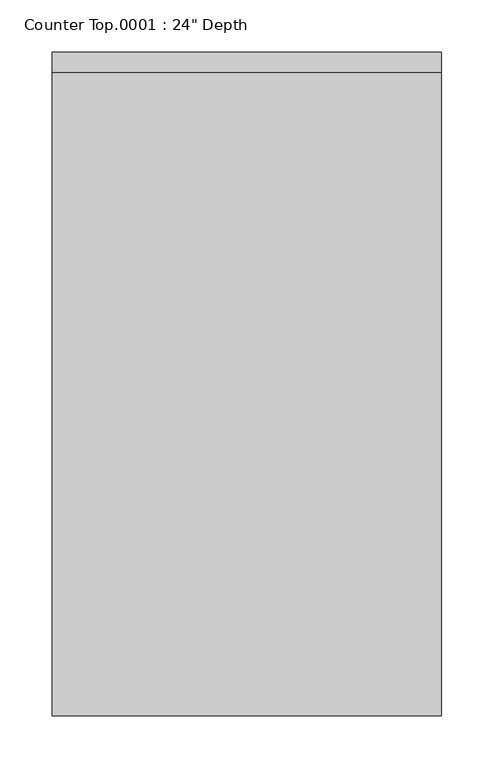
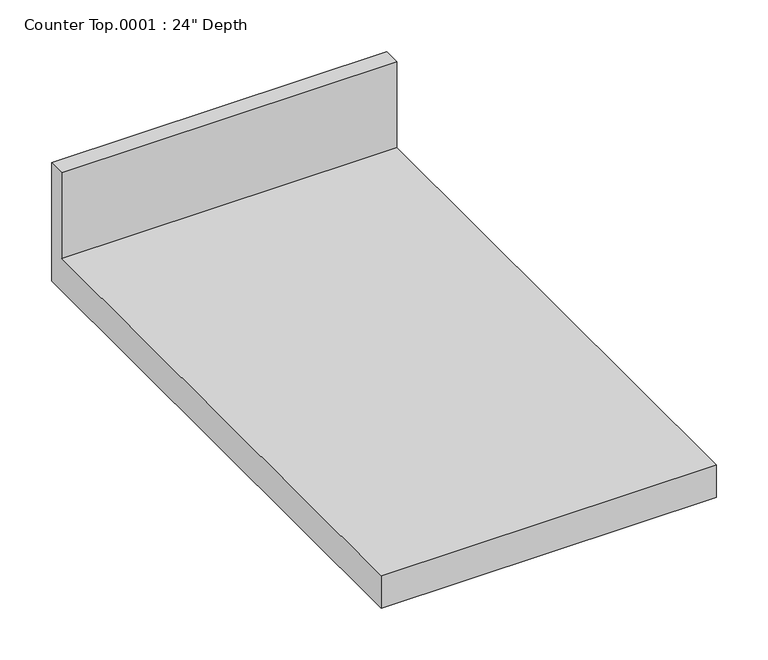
"""IFC4 building model written with IfcOpenShell, lengths in millimetres: furniture geometry."""

from ifc_helpers import new_model, si_unit, frame, origin, place, context, project, spatial, polyline, outline, extrude, source, transform, mapped, element, save


def furniture_5d53dcfe(model_context):
    return source(origin(), model_context, "Body", "SweptSolid", [
        extrude(outline(polyline([(0.0, 1016.0), (0.0, 876.3), (-635.0, 876.3), (-635.0, 914.4), (-19.05, 914.4), (-19.05, 1016.0), (0.0, 1016.0)])), frame((-1200.4622951, 0.0, 0.0), z_axis=(1.0, 0.0, 0.0), x_axis=(0.0, 1.0, 0.0)), (0.0, 0.0, 1.0), 372.9981788),
    ])


if __name__ == "__main__":
    model = new_model("IFC4")
    model_context = context("Model", 3, world=origin())
    ifc_project = project(units=[si_unit("LENGTHUNIT", "METRE", prefix="MILLI")], contexts=[model_context])
    site = spatial("IfcSite", under=ifc_project)
    building = spatial("IfcBuilding", under=site)
    placement = place(None, origin())
    furniture_shape = furniture_5d53dcfe(model_context)
    element("IfcFurniture", 1, ObjectType="Counter Top.0001 : 24\" Depth", at=placement, inside=building, context=model_context, shape_type="MappedRepresentation", body=[
        mapped(furniture_shape, transform((0.0, 0.0, 0.0), x_axis=(1.0, 0.0, 0.0), y_axis=(0.0, 1.0, 0.0), z_axis=(0.0, 0.0, 1.0))),
    ])
    save(model, "model.ifc")
